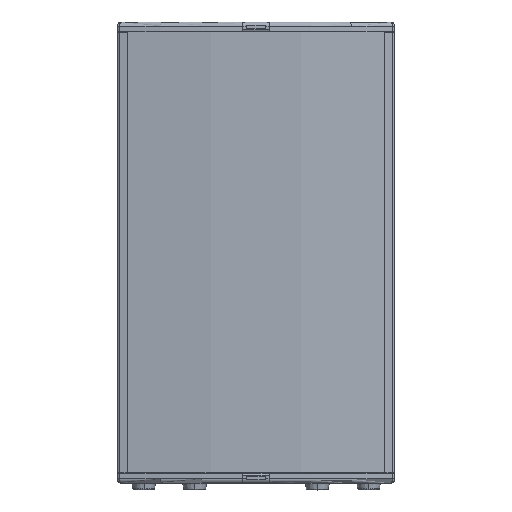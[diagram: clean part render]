
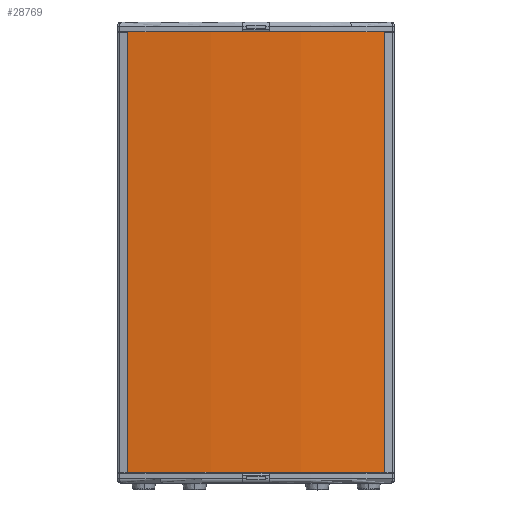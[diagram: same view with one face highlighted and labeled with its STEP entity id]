
A CAD part, top view. The second image highlights one B-rep face of the part: STEP entity #28769.
In plain terms, the highlighted cylindrical face has radius 1477.5 mm (diameter 2955 mm), a partial arc.
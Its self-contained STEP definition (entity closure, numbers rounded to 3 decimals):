
#13914 = CYLINDRICAL_SURFACE ( 'NONE', #13916, 1477.5 ) ;
#13915 = CARTESIAN_POINT ( 'NONE',  ( -79.316, -731.492, -1324.246 ) ) ;
#13916 = AXIS2_PLACEMENT_3D ( 'NONE', #13915, #13975, #13974 ) ;
#13921 = FACE_OUTER_BOUND ( 'NONE', #28775, .T. ) ;
#13973 = CARTESIAN_POINT ( 'NONE',  ( 124.875, 357.807, 139.076 ) ) ;
#13974 = DIRECTION ( 'NONE',  ( -1., 0., 0. ) ) ;
#13975 = DIRECTION ( 'NONE',  ( 0., 1., 0. ) ) ;
#14531 = CARTESIAN_POINT ( 'NONE',  ( -283.508, -308.193, 139.076 ) ) ;
#14829 = DIRECTION ( 'NONE',  ( -1., 0., 0. ) ) ;
#14830 = DIRECTION ( 'NONE',  ( 0., -1., 0. ) ) ;
#14831 = CARTESIAN_POINT ( 'NONE',  ( -79.316, -308.193, -1324.246 ) ) ;
#14832 = AXIS2_PLACEMENT_3D ( 'NONE', #14831, #14830, #14829 ) ;
#14833 = CIRCLE ( 'NONE', #14832, 1477.5 ) ;
#14865 = DIRECTION ( 'NONE',  ( 0., 1., 0. ) ) ;
#14866 = VECTOR ( 'NONE', #14865, 1000. ) ;
#14867 = CARTESIAN_POINT ( 'NONE',  ( -283.508, -731.492, 139.076 ) ) ;
#14868 = LINE ( 'NONE', #14867, #14866 ) ;
#14903 = CARTESIAN_POINT ( 'NONE',  ( -283.508, 357.807, 139.076 ) ) ;
#14931 = CARTESIAN_POINT ( 'NONE',  ( 124.875, -308.193, 139.076 ) ) ;
#14982 = DIRECTION ( 'NONE',  ( 1., 0., 0. ) ) ;
#14983 = DIRECTION ( 'NONE',  ( 0., 1., 0. ) ) ;
#14984 = CARTESIAN_POINT ( 'NONE',  ( -79.316, 357.807, -1324.246 ) ) ;
#14985 = AXIS2_PLACEMENT_3D ( 'NONE', #14984, #14983, #14982 ) ;
#14986 = CIRCLE ( 'NONE', #14985, 1477.5 ) ;
#15009 = DIRECTION ( 'NONE',  ( 0., -1., 0. ) ) ;
#15010 = VECTOR ( 'NONE', #15009, 1000. ) ;
#15011 = CARTESIAN_POINT ( 'NONE',  ( 124.875, -731.492, 139.076 ) ) ;
#15012 = LINE ( 'NONE', #15011, #15010 ) ;
#28769 = ADVANCED_FACE ( 'NONE', ( #13921 ), #13914, .T. ) ;
#28774 = VERTEX_POINT ( 'NONE', #13973 ) ;
#28775 = EDGE_LOOP ( 'NONE', ( #29691, #29668, #29432, #29564 ) ) ;
#29356 = VERTEX_POINT ( 'NONE', #14531 ) ;
#29432 = ORIENTED_EDGE ( 'NONE', *, *, #29585, .F. ) ;
#29563 = EDGE_CURVE ( 'NONE', #29655, #29356, #14833, .T. ) ;
#29564 = ORIENTED_EDGE ( 'NONE', *, *, #29563, .F. ) ;
#29585 = EDGE_CURVE ( 'NONE', #29356, #29621, #14868, .T. ) ;
#29621 = VERTEX_POINT ( 'NONE', #14903 ) ;
#29655 = VERTEX_POINT ( 'NONE', #14931 ) ;
#29665 = EDGE_CURVE ( 'NONE', #29621, #28774, #14986, .T. ) ;
#29668 = ORIENTED_EDGE ( 'NONE', *, *, #29665, .F. ) ;
#29691 = ORIENTED_EDGE ( 'NONE', *, *, #29696, .F. ) ;
#29696 = EDGE_CURVE ( 'NONE', #28774, #29655, #15012, .T. ) ;
